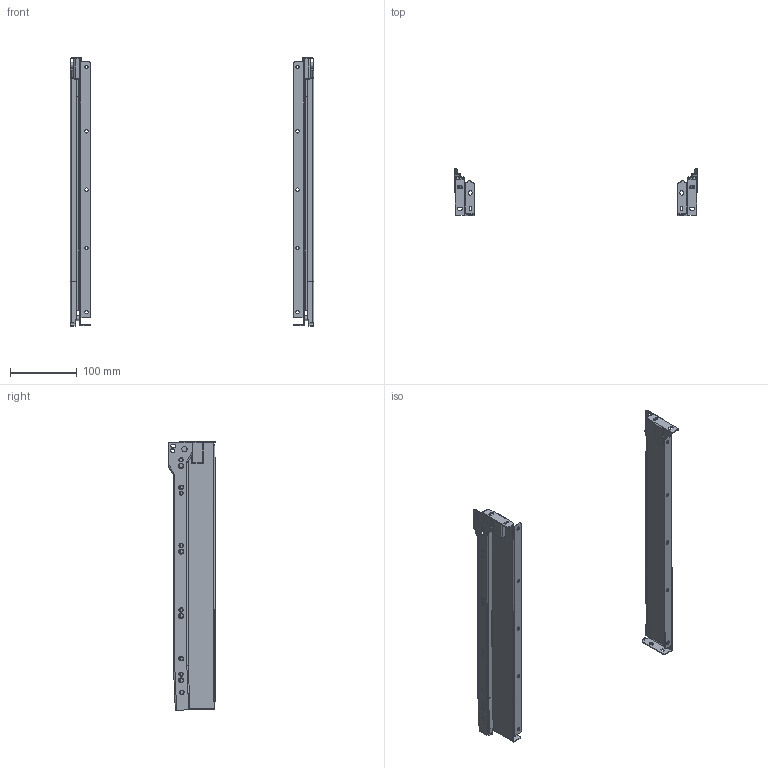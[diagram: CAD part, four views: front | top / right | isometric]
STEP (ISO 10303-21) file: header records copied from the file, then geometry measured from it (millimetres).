
FILE_DESCRIPTION(/* description */ (''),/* implementation_level */ '2;1');
FILE_NAME(/* name */ 'D:\$Workingspace\Designs\Katalog\Cadsoft\GTV Prwadnice II\MP (2)\MP\Metal box 3D\MP-054400-10.stp',/* time_stamp */ '2017-02-09T10:06:56+01:00',/* author */ ('tomaszw'),/* organization */ (''),/* preprocessor_version */ 'ST-DEVELOPER v16.1',/* originating_system */ 'Autodesk Inventor 2016',/* authorisation */ '');
FILE_SCHEMA (('CONFIG_CONTROL_DESIGN'));
Length unit declared in the file: millimetre
Products named in the file (5): MP-400-10_CL; MP-400-10_CR; MP-054400-10_DL; MP-054400-10_DR; MP
Assembly tree (4 placements, depth 2):
  MP
    MP-400-10_CL
    MP-400-10_CR
    MP-054400-10_DL
    MP-054400-10_DR
Bounding box: 364 x 70.56 x 401.12 mm (x, y, z)
Volume: 130024.4 mm3; surface area: 200528.1 mm2
Topology: 8 solids, 8 shells, 474 faces, 1220 edges, 774 vertices
Faces by surface type: plane 218, cylinder 194, cone 30, torus 20, sphere 12
Full cylindrical faces by diameter (mm): 4.8 x2, 5 x10, 5.5 x12, 6.5 x8, 7 x4, 8 x4, 18.5 x4
Entity records: 14907 total; most frequent: CARTESIAN_POINT 2617, DIRECTION 2512, ORIENTED_EDGE 2276, EDGE_CURVE 1138, AXIS2_PLACEMENT_3D 909, VERTEX_POINT 766, LINE 694, VECTOR 694
